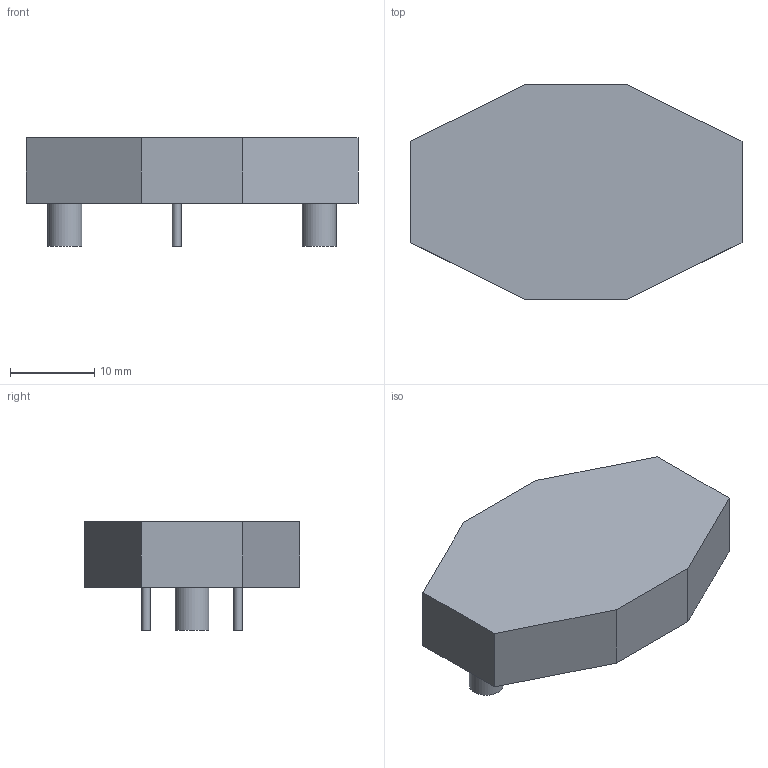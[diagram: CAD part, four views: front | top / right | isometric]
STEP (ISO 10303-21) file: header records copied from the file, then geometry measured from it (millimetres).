
FILE_DESCRIPTION(('FreeCAD Model'),'2;1');
FILE_NAME('/var/www/3D/0T/10458375.1.3.stp','2020-12-13T12:19:01',( 'Author'),(''),'Open CASCADE STEP processor 6.9','FreeCAD','Unknown' );
FILE_SCHEMA(('AUTOMOTIVE_DESIGN { 1 0 10303 214 1 1 1 1 }'));
Length unit declared in the file: millimetre
Products named in the file (3): ASSEMBLY; Body; Leads
Assembly tree (2 placements, depth 2):
  ASSEMBLY
    Body
    Leads
Bounding box: 39.37 x 25.53 x 12.84 mm (x, y, z)
Volume: 6484.1 mm3; surface area: 2699.7 mm2
Topology: 5 solids, 5 shells, 22 faces, 36 edges, 24 vertices
Faces by surface type: plane 18, cylinder 4
Full cylindrical faces by diameter (mm): 1.03 x2, 4.015 x2
Entity records: 1063 total; most frequent: DIRECTION 166, CARTESIAN_POINT 157, LINE 92, VECTOR 92, ORIENTED_EDGE 72, PCURVE 72, DEFINITIONAL_REPRESENTATION 72, EDGE_CURVE 36
